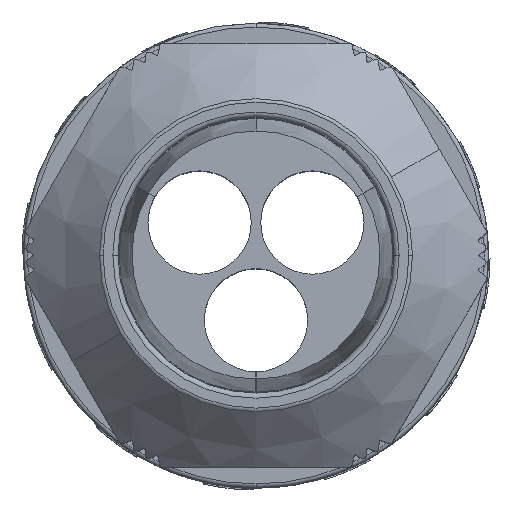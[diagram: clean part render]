
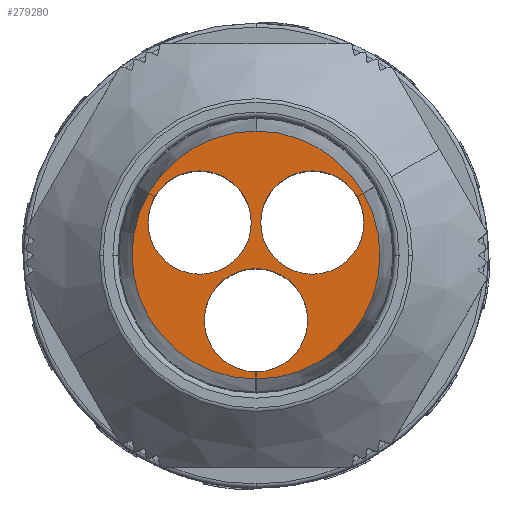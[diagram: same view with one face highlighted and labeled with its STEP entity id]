
A CAD part, top view. The second image highlights one B-rep face of the part: STEP entity #279280.
In plain terms, the highlighted planar face has unit normal (0, 0, 1).
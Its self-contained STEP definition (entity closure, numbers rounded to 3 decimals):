
#271350=CARTESIAN_POINT('',(830.149,309.68,
15.515));
#271360=VERTEX_POINT('',#271350);
#271390=CARTESIAN_POINT('',(830.149,297.68,
15.515));
#271400=DIRECTION('',(0.,0.,1.));
#271410=DIRECTION('',(0.,-1.,0.));
#271420=AXIS2_PLACEMENT_3D('',#271390,#271400,#271410);
#271430=CIRCLE('',#271420,12.);
#271440=CARTESIAN_POINT('',(819.762,303.688,
15.515));
#271450=VERTEX_POINT('',#271440);
#271460=EDGE_CURVE('',#271360,#271450,#271430,.T.);
#271940=CARTESIAN_POINT('',(830.159,285.68,
15.515));
#271950=VERTEX_POINT('',#271940);
#271980=CARTESIAN_POINT('',(840.547,303.671,
15.515));
#271990=VERTEX_POINT('',#271980);
#272000=EDGE_CURVE('',#271950,#271990,#271430,.T.);
#272710=CARTESIAN_POINT('',(820.358,303.321,
15.515));
#272720=VERTEX_POINT('',#272710);
#272900=CARTESIAN_POINT('',(819.694,300.83,
15.515));
#272910=VERTEX_POINT('',#272900);
#272940=CARTESIAN_POINT('',(824.694,300.83,
15.515));
#272950=DIRECTION('',(0.,0.,-1.));
#272960=DIRECTION('',(1.,0.,0.));
#272970=AXIS2_PLACEMENT_3D('',#272940,#272950,#272960);
#272980=CIRCLE('',#272970,5.);
#272990=EDGE_CURVE('',#272910,#272720,#272980,.T.);
#273130=CARTESIAN_POINT('',(830.159,286.38,
15.515));
#273140=VERTEX_POINT('',#273130);
#273320=CARTESIAN_POINT('',(835.149,291.38,
15.515));
#273330=VERTEX_POINT('',#273320);
#273360=CARTESIAN_POINT('',(830.149,291.38,
15.515));
#273370=DIRECTION('',(0.,0.,-1.));
#273380=DIRECTION('',(1.,0.,0.));
#273390=AXIS2_PLACEMENT_3D('',#273360,#273370,#273380);
#273400=CIRCLE('',#273390,5.);
#273410=EDGE_CURVE('',#273330,#273140,#273400,.T.);
#273550=CARTESIAN_POINT('',(839.931,303.338,
15.515));
#273560=VERTEX_POINT('',#273550);
#273740=CARTESIAN_POINT('',(830.605,300.83,
15.515));
#273750=VERTEX_POINT('',#273740);
#273780=CARTESIAN_POINT('',(835.605,300.83,
15.515));
#273790=DIRECTION('',(0.,0.,-1.));
#273800=DIRECTION('',(1.,0.,0.));
#273810=AXIS2_PLACEMENT_3D('',#273780,#273790,#273800);
#273820=CIRCLE('',#273810,5.);
#273830=EDGE_CURVE('',#273750,#273560,#273820,.T.);
#278460=CARTESIAN_POINT('',(830.149,291.68,
15.515));
#278470=DIRECTION('',(0.,0.,1.));
#278480=DIRECTION('',(0.,1.,0.));
#278490=AXIS2_PLACEMENT_3D('',#278460,#278470,#278480);
#278500=PLANE('',#278490);
#278510=CARTESIAN_POINT('',(829.694,300.83,
15.515));
#278520=VERTEX_POINT('',#278510);
#278530=EDGE_CURVE('',#278520,#272910,#272980,.T.);
#278540=ORIENTED_EDGE('',*,*,#278530,.T.);
#278550=CARTESIAN_POINT('',(820.368,303.338,
15.515));
#278560=VERTEX_POINT('',#278550);
#278570=EDGE_CURVE('',#278560,#278520,#272980,.T.);
#278580=ORIENTED_EDGE('',*,*,#278570,.T.);
#278590=CARTESIAN_POINT('',(830.149,297.691,
15.515));
#278600=DIRECTION('',(-0.866,0.5,
0.));
#278610=VECTOR('',#278600,1.);
#278620=LINE('',#278590,#278610);
#278630=EDGE_CURVE('',#278560,#271450,#278620,.T.);
#278640=ORIENTED_EDGE('',*,*,#278630,.F.);
#278650=ORIENTED_EDGE('',*,*,#271460,.T.);
#278660=CARTESIAN_POINT('',(840.537,303.688,
15.515));
#278670=VERTEX_POINT('',#278660);
#278680=EDGE_CURVE('',#278670,#271360,#271430,.T.);
#278690=ORIENTED_EDGE('',*,*,#278680,.T.);
#278700=CARTESIAN_POINT('',(830.149,297.691,
15.515));
#278710=DIRECTION('',(-0.866,-0.5,
0.));
#278720=VECTOR('',#278710,1.);
#278730=LINE('',#278700,#278720);
#278740=EDGE_CURVE('',#278670,#273560,#278730,.T.);
#278750=ORIENTED_EDGE('',*,*,#278740,.F.);
#278760=ORIENTED_EDGE('',*,*,#273830,.T.);
#278770=CARTESIAN_POINT('',(840.605,300.83,
15.515));
#278780=VERTEX_POINT('',#278770);
#278790=EDGE_CURVE('',#278780,#273750,#273820,.T.);
#278800=ORIENTED_EDGE('',*,*,#278790,.T.);
#278810=CARTESIAN_POINT('',(839.941,303.321,
15.515));
#278820=VERTEX_POINT('',#278810);
#278830=EDGE_CURVE('',#278820,#278780,#273820,.T.);
#278840=ORIENTED_EDGE('',*,*,#278830,.T.);
#278850=CARTESIAN_POINT('',(830.149,297.668,
15.515));
#278860=DIRECTION('',(0.866,0.5,
0.));
#278870=VECTOR('',#278860,1.);
#278880=LINE('',#278850,#278870);
#278890=EDGE_CURVE('',#278820,#271990,#278880,.T.);
#278900=ORIENTED_EDGE('',*,*,#278890,.F.);
#278910=ORIENTED_EDGE('',*,*,#272000,.T.);
#278920=CARTESIAN_POINT('',(830.159,284.68,
15.515));
#278930=DIRECTION('',(0.,1.,0.));
#278940=VECTOR('',#278930,1.);
#278950=LINE('',#278920,#278940);
#278960=EDGE_CURVE('',#271950,#273140,#278950,.T.);
#278970=ORIENTED_EDGE('',*,*,#278960,.F.);
#278980=ORIENTED_EDGE('',*,*,#273410,.T.);
#278990=CARTESIAN_POINT('',(825.149,291.38,
15.515));
#279000=VERTEX_POINT('',#278990);
#279010=EDGE_CURVE('',#279000,#273330,#273400,.T.);
#279020=ORIENTED_EDGE('',*,*,#279010,.T.);
#279030=CARTESIAN_POINT('',(830.139,286.38,
15.515));
#279040=VERTEX_POINT('',#279030);
#279050=EDGE_CURVE('',#279040,#279000,#273400,.T.);
#279060=ORIENTED_EDGE('',*,*,#279050,.T.);
#279070=CARTESIAN_POINT('',(830.139,284.68,
15.515));
#279080=DIRECTION('',(0.,-1.,0.));
#279090=VECTOR('',#279080,1.);
#279100=LINE('',#279070,#279090);
#279110=CARTESIAN_POINT('',(830.139,285.68,
15.515));
#279120=VERTEX_POINT('',#279110);
#279130=EDGE_CURVE('',#279040,#279120,#279100,.T.);
#279140=ORIENTED_EDGE('',*,*,#279130,.F.);
#279150=CARTESIAN_POINT('',(819.752,303.671,
15.515));
#279160=VERTEX_POINT('',#279150);
#279170=EDGE_CURVE('',#279160,#279120,#271430,.T.);
#279180=ORIENTED_EDGE('',*,*,#279170,.T.);
#279190=CARTESIAN_POINT('',(830.149,297.668,
15.515));
#279200=DIRECTION('',(0.866,-0.5,
0.));
#279210=VECTOR('',#279200,1.);
#279220=LINE('',#279190,#279210);
#279230=EDGE_CURVE('',#279160,#272720,#279220,.T.);
#279240=ORIENTED_EDGE('',*,*,#279230,.F.);
#279250=ORIENTED_EDGE('',*,*,#272990,.T.);
#279260=EDGE_LOOP('',(#279250,#279240,#279180,#279140,#279060,#279020,
#278980,#278970,#278910,#278900,#278840,#278800,#278760,#278750,#278690,
#278650,#278640,#278580,#278540));
#279270=FACE_OUTER_BOUND('',#279260,.T.);
#279280=ADVANCED_FACE('',(#279270),#278500,.T.);
